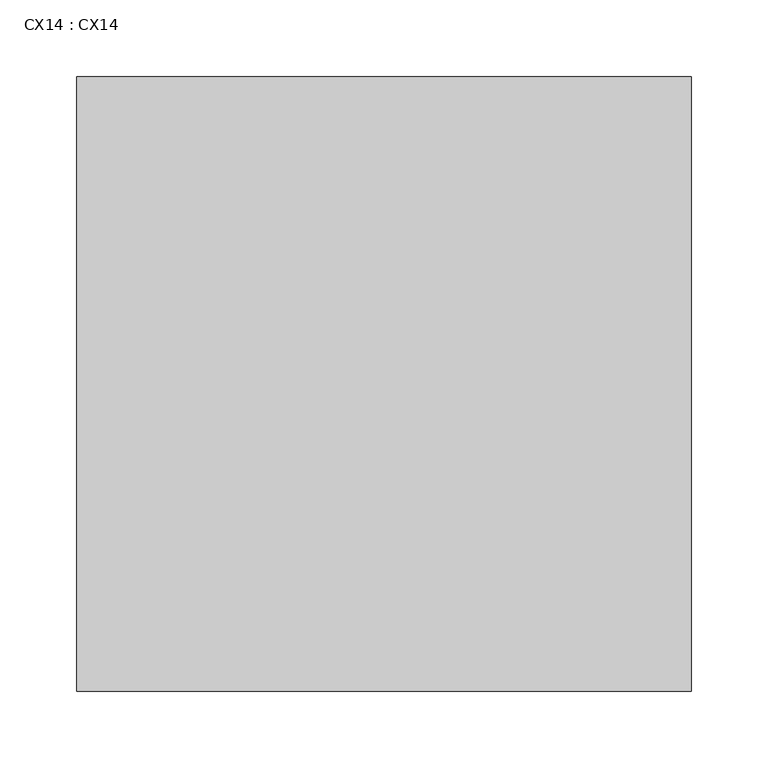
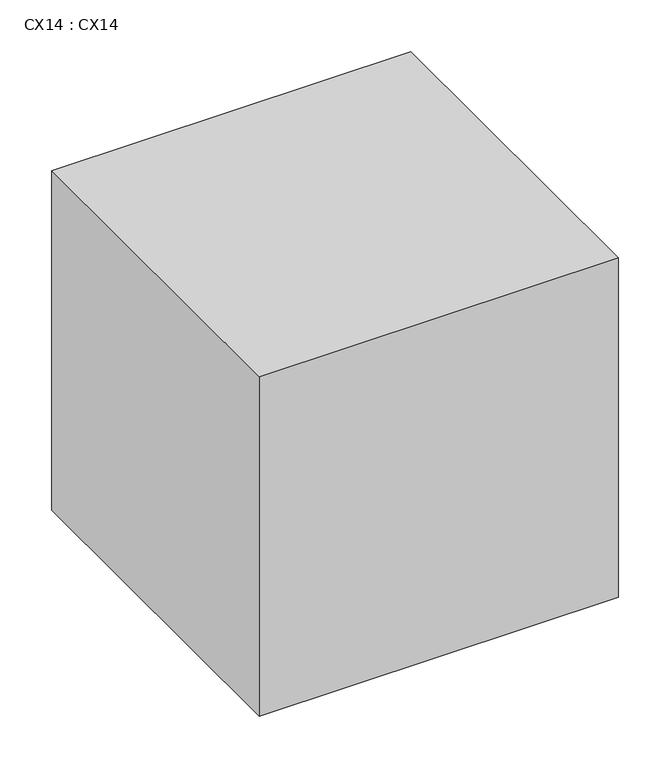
"""IFC4 building model written with IfcOpenShell, lengths in millimetres: proxy geometry, CX14 : CX14."""

from ifc_helpers import new_model, si_unit, frame, origin, place, context, project, spatial, polyline, outline, extrude, source, transform, mapped, element, save


def cx14_cx14_c13610b7(model_context):
    return source(origin(), model_context, "Body", "SweptSolid", [
        extrude(outline(polyline([(23002.7, 5871.76), (23402.7, 5871.76), (23402.7, 5471.76), (23002.7, 5471.76), (23002.7, 5871.76)])), frame((0.0, 0.0, -370.0), z_axis=(0.0, 0.0, 1.0), x_axis=(1.0, 0.0, 0.0)), (0.0, 0.0, 1.0), 400.0),
    ])


if __name__ == "__main__":
    model = new_model("IFC4")
    model_context = context("Model", 3, world=origin())
    ifc_project = project(units=[si_unit("LENGTHUNIT", "METRE", prefix="MILLI")], contexts=[model_context])
    site = spatial("IfcSite", under=ifc_project)
    building = spatial("IfcBuilding", under=site)
    placement = place(None, origin())
    cx14_cx14_shape = cx14_cx14_c13610b7(model_context)
    element("IfcBuildingElementProxy", 1, Name="CX14 : CX14", ObjectType="CX14 : CX14", at=placement, inside=building, context=model_context, shape_type="MappedRepresentation", body=[
        mapped(cx14_cx14_shape, transform((0.0, 0.0, 0.0), x_axis=(1.0, 0.0, 0.0), y_axis=(0.0, 1.0, 0.0), z_axis=(0.0, 0.0, 1.0))),
    ])
    save(model, "model.ifc")
